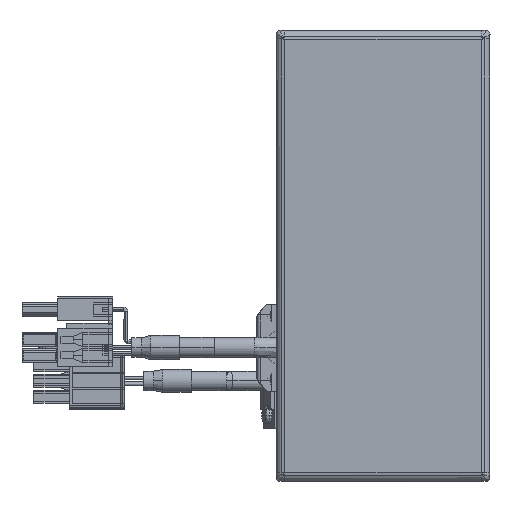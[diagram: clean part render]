
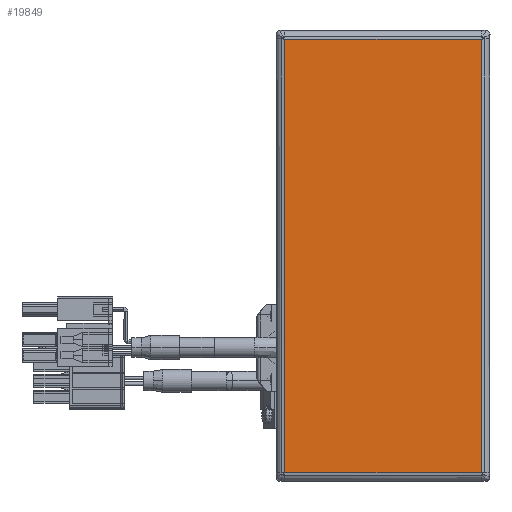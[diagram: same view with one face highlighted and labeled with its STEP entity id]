
A CAD part, top view. The second image highlights one B-rep face of the part: STEP entity #19849.
In plain terms, the highlighted planar face has unit normal (0, 0, 1) as drawn and (0, 0, -1) by its records, which use the part's own axes.
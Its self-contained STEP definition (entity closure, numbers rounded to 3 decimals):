
#497 = ORIENTED_EDGE ( 'NONE', *, *, #12153, .T. ) ;
#2055 = CARTESIAN_POINT ( 'NONE',  ( 56.763, 25.793, -1.5 ) ) ;
#5059 = EDGE_CURVE ( 'NONE', #15750, #22795, #41032, .T. ) ;
#5534 = VECTOR ( 'NONE', #39483, 1000. ) ;
#7157 = AXIS2_PLACEMENT_3D ( 'NONE', #19379, #24009, #56257 ) ;
#12153 = EDGE_CURVE ( 'NONE', #22795, #52435, #30015, .T. ) ;
#12356 = ORIENTED_EDGE ( 'NONE', *, *, #5059, .T. ) ;
#13262 = VECTOR ( 'NONE', #40167, 1000. ) ;
#15750 = VERTEX_POINT ( 'NONE', #54185 ) ;
#19297 = VERTEX_POINT ( 'NONE', #51303 ) ;
#19379 = CARTESIAN_POINT ( 'NONE',  ( 0., 0., -1.5 ) ) ;
#19849 = ADVANCED_FACE ( 'NONE', ( #47611 ), #47019, .T. ) ;
#20739 = LINE ( 'NONE', #45013, #31593 ) ;
#22795 = VERTEX_POINT ( 'NONE', #50476 ) ;
#24009 = DIRECTION ( 'NONE',  ( 0., 0., -1. ) ) ;
#25551 = LINE ( 'NONE', #49225, #13262 ) ;
#28577 = VECTOR ( 'NONE', #43791, 1000. ) ;
#30015 = LINE ( 'NONE', #2055, #28577 ) ;
#31303 = EDGE_CURVE ( 'NONE', #52435, #19297, #20739, .T. ) ;
#31593 = VECTOR ( 'NONE', #49642, 1000. ) ;
#34849 = CARTESIAN_POINT ( 'NONE',  ( -56.793, 25.763, -1.5 ) ) ;
#39483 = DIRECTION ( 'NONE',  ( 1., 0., 0. ) ) ;
#40167 = DIRECTION ( 'NONE',  ( 0., 1., 0. ) ) ;
#41032 = LINE ( 'NONE', #34849, #5534 ) ;
#43791 = DIRECTION ( 'NONE',  ( 0., -1., 0. ) ) ;
#45013 = CARTESIAN_POINT ( 'NONE',  ( 56.793, -25.763, -1.5 ) ) ;
#47019 = PLANE ( 'NONE',  #7157 ) ;
#47032 = CARTESIAN_POINT ( 'NONE',  ( 56.763, -25.763, -1.5 ) ) ;
#47611 = FACE_OUTER_BOUND ( 'NONE', #57171, .T. ) ;
#49225 = CARTESIAN_POINT ( 'NONE',  ( -56.763, -25.793, -1.5 ) ) ;
#49642 = DIRECTION ( 'NONE',  ( -1., 0., 0. ) ) ;
#50476 = CARTESIAN_POINT ( 'NONE',  ( 56.763, 25.763, -1.5 ) ) ;
#51303 = CARTESIAN_POINT ( 'NONE',  ( -56.763, -25.763, -1.5 ) ) ;
#52435 = VERTEX_POINT ( 'NONE', #47032 ) ;
#52685 = EDGE_CURVE ( 'NONE', #19297, #15750, #25551, .T. ) ;
#54185 = CARTESIAN_POINT ( 'NONE',  ( -56.763, 25.763, -1.5 ) ) ;
#55097 = ORIENTED_EDGE ( 'NONE', *, *, #31303, .T. ) ;
#55180 = ORIENTED_EDGE ( 'NONE', *, *, #52685, .T. ) ;
#56257 = DIRECTION ( 'NONE',  ( -1., 0., 0. ) ) ;
#57171 = EDGE_LOOP ( 'NONE', ( #497, #55097, #55180, #12356 ) ) ;
